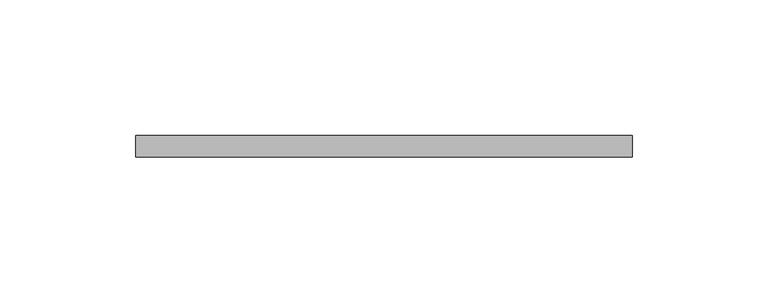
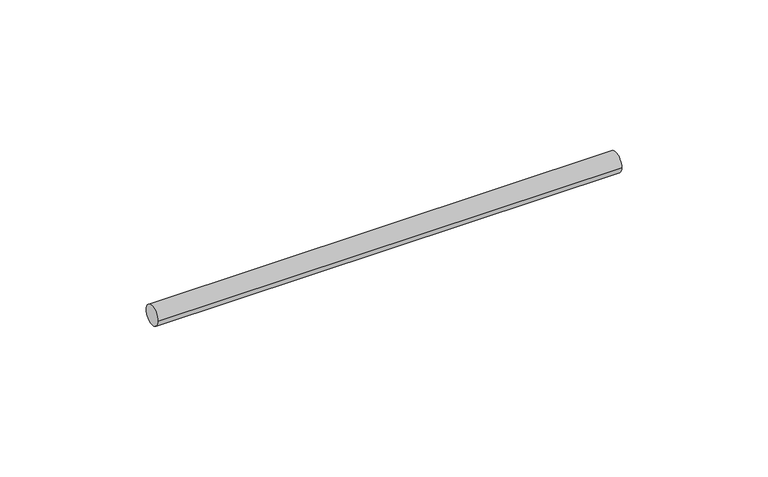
"""IFC4 building model written with IfcOpenShell, lengths in millimetres: valve geometry, Superfix Threaded Rod (used for clamps) : Threaded Rod - 1000 mm (used for clamps)."""

from ifc_helpers import new_model, si_unit, point, frame, origin, origin_2d, place, context, project, spatial, circle_curve, trimmed, segment, composite_curve, outline, extrude, source, transform, mapped, element, save


def valve_5304cde6(model_context):
    return source(origin(), model_context, "Body", "SweptSolid", [
        extrude(outline(composite_curve([segment(trimmed(circle_curve(origin_2d(), 4.0), [point((-4.0, 0.0))], [point((4.0, 0.0))], False, "CARTESIAN"), True, "CONTINUOUS"), segment(trimmed(circle_curve(origin_2d(), 4.0), [point((4.0, 0.0))], [point((-4.0, 0.0))], False, "CARTESIAN"), True, "CONTINUOUS")], self_intersect=False)), frame((-10.0, 0.0, 0.0), z_axis=(1.0, 0.0, 0.0), x_axis=(0.0, 1.0, 0.0)), (0.0, 0.0, 1.0), 183.0),
    ])


if __name__ == "__main__":
    model = new_model("IFC4")
    model_context = context("Model", 3, world=origin())
    ifc_project = project(units=[si_unit("LENGTHUNIT", "METRE", prefix="MILLI")], contexts=[model_context])
    site = spatial("IfcSite", under=ifc_project)
    building = spatial("IfcBuilding", under=site)
    placement = place(None, origin())
    valve_shape = valve_5304cde6(model_context)
    element("IfcValve", 1, ObjectType="Superfix Threaded Rod (used for clamps) : Threaded Rod - 1000 mm (used for clamps)", at=placement, inside=building, context=model_context, shape_type="MappedRepresentation", body=[
        mapped(valve_shape, transform((0.0, 0.0, 0.0), x_axis=(1.0, 0.0, 0.0), y_axis=(0.0, 1.0, 0.0), z_axis=(0.0, 0.0, 1.0))),
    ])
    save(model, "model.ifc")
